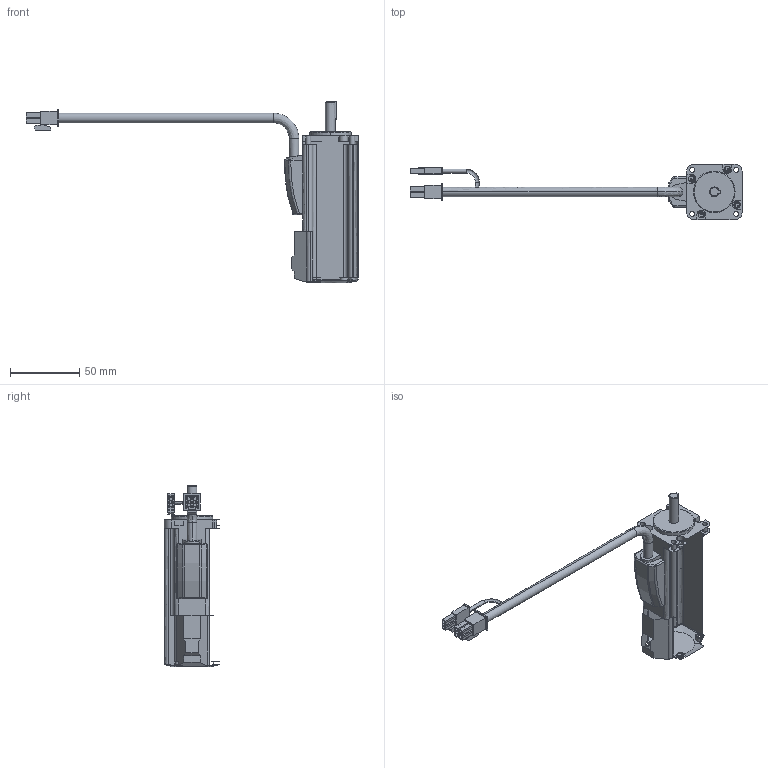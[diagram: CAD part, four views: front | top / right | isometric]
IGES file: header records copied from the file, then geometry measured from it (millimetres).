
Start section:  PTC IGES file: RSMZ-A3BA3XT.igs
Global section: file name: RSMZ-A3BA3XT.igs; native system: Pro/ENGINEER by Parametric Technology Corporation; preprocessor: 2004440; author: Administrator; organization: Unknown; date: 070904.190139; units: millimetre
Bounding box: 239.9 x 40 x 131 mm (x, y, z)
Surface area: 23591.3 mm2 (no closed solid volume)
Topology: 0 solids, 0 shells, 262 faces, 941 edges, 740 vertices
Faces by surface type: bspline 192, revolution 70
